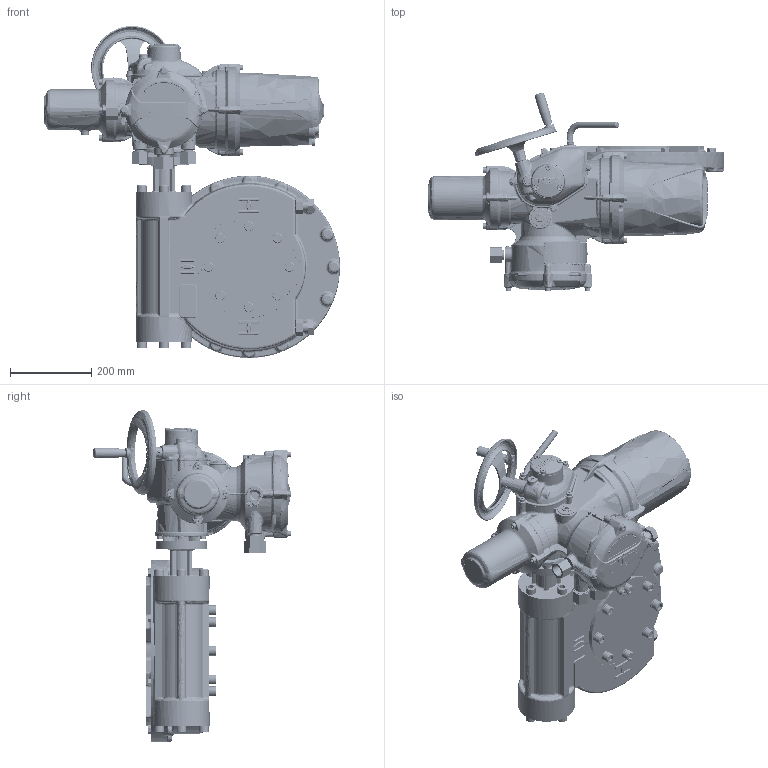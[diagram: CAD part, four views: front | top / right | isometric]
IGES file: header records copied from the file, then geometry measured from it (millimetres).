
Start section: C
Global section: file name: II1SHWIW7STD-1.igs; native system: By Siemens PLM Incorporated; preprocessor: XPlus GENERIC/IGES 17.0.49; author: Author; organization: Title; date: 20150109.122106; units: millimetre
Bounding box: 730.93 x 489.76 x 819.38 mm (x, y, z)
Surface area: 1610885.4 mm2 (no closed solid volume)
Topology: 0 solids, 0 shells, 9613 faces, 53032 edges, 52554 vertices
Faces by surface type: bspline 9613
